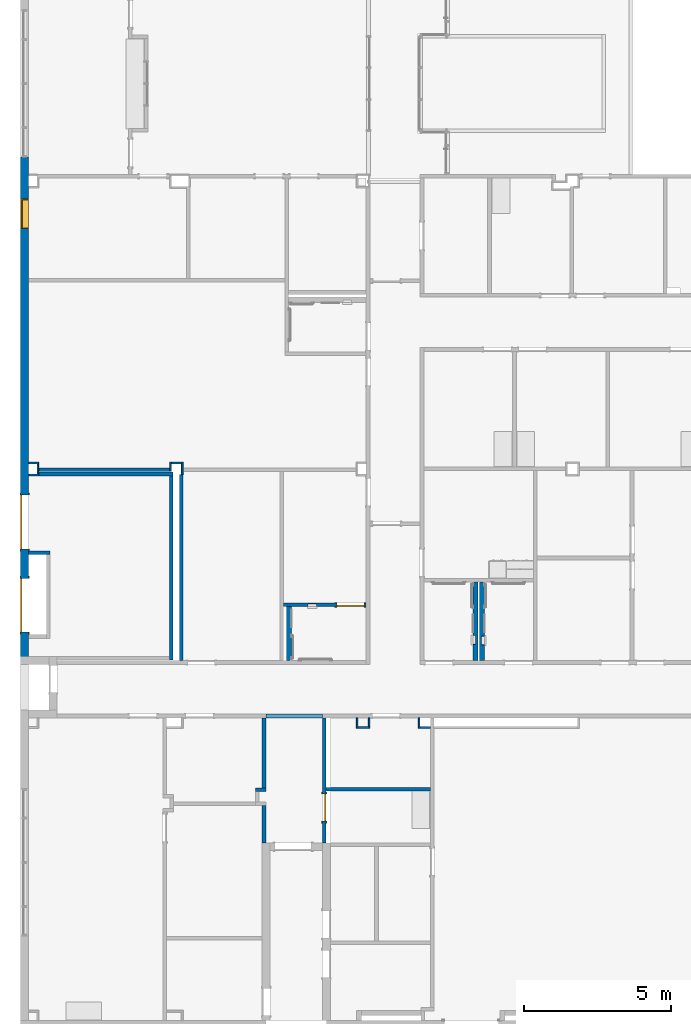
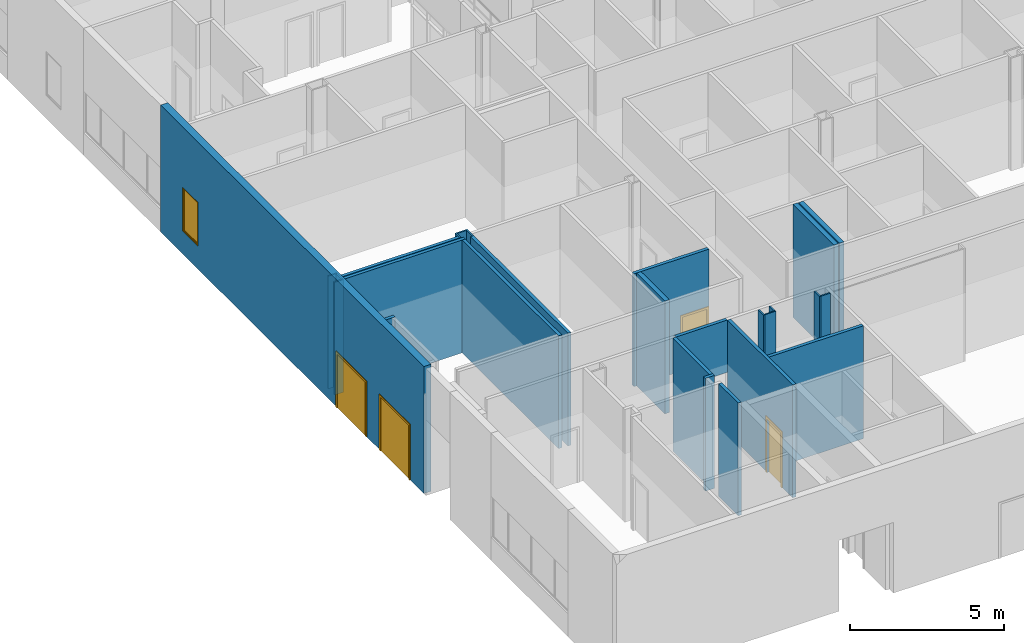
# One storey, part 20 of 87: 27 walls, 4 doors, 1 window, 8 openings.
"""IFC2X3 building model written with IfcOpenShell, lengths in metres."""

from ifc_helpers import new_model, entity, si_unit, converted_unit, frame, frame_2d, origin, origin_2d_with_axis, place, context, project, spatial, polyline, rectangle, outline, extrude, source, transform, mapped, material, layer, layer_set, layer_usage, type_object, type_shapes, element, fill, save


model = new_model("IFC2X3")

# Units and contexts
model_context = context("Model", 3, precision=1e-09, world=origin())
plan_context = context("Plan", 3, precision=1e-09, world=origin())
ifc_project = project(units=[si_unit("LENGTHUNIT", "METRE"), si_unit("AREAUNIT", "SQUARE_METRE"), si_unit("VOLUMEUNIT", "CUBIC_METRE"), converted_unit("PLANEANGLEUNIT", "DEGREE", entity("IfcRatioMeasure", 0.01745329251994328), si_unit("PLANEANGLEUNIT", "RADIAN"), dimensions=[0, 0, 0, 0, 0, 0, 0]), si_unit("TIMEUNIT", "SECOND")], contexts=[model_context, plan_context])

# Site, building, storey
site_placement = place(None, origin())
site = spatial("IfcSite", under=ifc_project, at=site_placement, Name="Default", CompositionType="ELEMENT")
building_placement = place(site_placement, origin())
building = spatial("IfcBuilding", under=site, at=building_placement, CompositionType="ELEMENT")
storey_placement = place(building_placement, origin())
storey = spatial("IfcBuildingStorey", under=building, at=storey_placement, Name="First Floor", CompositionType="ELEMENT", Elevation=-3.531500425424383e-13)

# Wall, openings, doors, window
ifc_material_1 = material(Name="Insulation - Insulated Panel")
ifc_layer_1 = layer(ifc_material_1, 0.042)
ifc_material_2 = material(Name="Metal - Firring")
ifc_layer_2 = layer(ifc_material_2, 0.038)
ifc_material_3 = material(Name="Wood - Sheathing - plywood")
ifc_layer_3 = layer(ifc_material_3, 0.019)
ifc_material_4 = material(Name="Metal - Stud Layer")
ifc_layer_4 = layer(ifc_material_4, 0.152)
ifc_material_5 = material(Name="Plasterboard")
ifc_layer_5 = layer(ifc_material_5, 0.016)
ifc_layer_set_1 = layer_set([ifc_layer_1, ifc_layer_2, ifc_layer_3, ifc_layer_4, ifc_layer_5], Name="Basic Wall:Exterior - Insul Panel on Mtl. Stud")
ifc_layer_usage_1 = layer_usage(ifc_layer_set_1, "AXIS2", "NEGATIVE", 0.1335)
wall_1_placement = place(storey_placement, frame((-52.14650000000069, 12.11349999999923, 0.0), z_axis=(0.0, 0.0, 1.0), x_axis=(0.0, 1.0, 0.0)))
wall_1 = element("IfcWallStandardCase", 1, at=wall_1_placement, inside=storey, material=ifc_layer_usage_1, Name="Basic Wall:Exterior - Insul Panel on Mtl. Stud", ObjectType="Basic Wall:Exterior - Insul Panel on Mtl. Stud", context=model_context, shape_type="SweptSolid", body=[
    extrude(rectangle(XDim=17.08145593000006, YDim=0.267, at=frame_2d((8.540727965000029, 0.0), x_axis=(1.0, 0.0))), origin(), (0.0, 0.0, 1.0), 5.02700000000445),
])
opening_1_placement = place(wall_1_placement, frame((0.9561000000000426, -0.1334999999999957, 0.0)))
opening_1 = element("IfcOpeningElement", 2, at=opening_1_placement, cuts=wall_1, Name="M_Double-Flush:1830 x 2134mm Exterior:1830 x 2134mm Exterior:1", ObjectType="Opening", context=model_context, shape_type="SweptSolid", body=[
    extrude(rectangle(XDim=2.133999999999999, YDim=1.829999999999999, at=frame_2d((1.067, 0.9149999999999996), x_axis=(1.0, 0.0))), frame((0.0, 0.0, 0.0), z_axis=(0.0, 1.0, 0.0), x_axis=(0.0, 0.0, 1.0)), (0.0, 0.0, 1.0), 0.267),
])
opening_2_placement = place(wall_1_placement, frame((3.776300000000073, -0.1335000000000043, 0.0)))
opening_2 = element("IfcOpeningElement", 3, at=opening_2_placement, cuts=wall_1, Name="M_Double-Flush:1830 x 2134mm Exterior:1830 x 2134mm Exterior:1", ObjectType="Opening", context=model_context, shape_type="SweptSolid", body=[
    extrude(rectangle(XDim=2.133999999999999, YDim=1.829999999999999, at=frame_2d((1.067, 0.9149999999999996), x_axis=(1.0, 0.0))), frame((0.0, 0.0, 0.0), z_axis=(0.0, 1.0, 0.0), x_axis=(0.0, 0.0, 1.0)), (0.0, 0.0, 1.0), 0.267),
])
opening_3_placement = place(wall_1_placement, frame((14.65250000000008, -0.1335000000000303, 0.9049999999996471)))
opening_3 = element("IfcOpeningElement", 4, at=opening_3_placement, cuts=wall_1, Name="M_Fixed:1735 x 1000mm:1735 x 1000mm:1", ObjectType="Opening", context=model_context, shape_type="SweptSolid", body=[
    extrude(rectangle(XDim=1.734999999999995, YDim=0.9999999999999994, at=frame_2d((0.8674999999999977, 0.5000000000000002), x_axis=(1.0, 0.0))), frame((0.0, 0.0, 0.0), z_axis=(0.0, 1.0, 0.0), x_axis=(0.0, 0.0, 1.0)), (0.0, 0.0, 1.0), 0.267),
])
door_style_1 = type_object("IfcDoorStyle", Name="1830 x 2134mm Exterior", ConstructionType="NOTDEFINED", OperationType="DOUBLE_DOOR_SINGLE_SWING", ParameterTakesPrecedence=False, Sizeable=False)
shared_shape_1 = source(origin(), model_context, "Body", "SweptSolid", [
    extrude(rectangle(XDim=0.051, YDim=0.9150000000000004, at=origin_2d_with_axis()), frame((1.3725, 0.2414999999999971, 0.0), z_axis=(0.0, 0.0, 1.0), x_axis=(0.0, -1.0, 0.0)), (0.0, 0.0, 1.0), 2.133999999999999),
    extrude(rectangle(XDim=0.05099999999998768, YDim=0.9149999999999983, at=origin_2d_with_axis()), frame((0.457500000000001, 0.2415000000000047, 0.0), z_axis=(0.0, 0.0, 1.0), x_axis=(0.0, -1.0, 0.0)), (0.0, 0.0, 1.0), 2.134),
    extrude(outline(polyline([(-1.048, 0.9149999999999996), (1.086, 0.9149999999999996), (1.086, 0.9909999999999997), (-1.124, 0.9909999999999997), (-1.124, -0.9909999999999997), (1.086, -0.9909999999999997), (1.086, -0.9149999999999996), (-1.048, -0.9149999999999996), (-1.048, 0.9149999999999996)])), frame((0.9149999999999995, -0.02499999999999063, 1.086), z_axis=(0.0, 1.0, 0.0), x_axis=(0.0, 0.0, -1.0)), (0.0, 0.0, 1.0), 0.02499999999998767),
    extrude(outline(polyline([(-1.048, 0.9149999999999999), (1.086, 0.9149999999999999), (1.086, 0.991), (-1.124, 0.991), (-1.124, -0.991), (1.086, -0.991), (1.086, -0.9149999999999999), (-1.048, -0.9149999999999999), (-1.048, 0.9149999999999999)])), frame((0.9150000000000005, 0.266999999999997, 1.086), z_axis=(0.0, 1.0, 0.0), x_axis=(0.0, 0.0, -1.0)), (0.0, 0.0, 1.0), 0.02500000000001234),
])
type_shapes(door_style_1, [shared_shape_1])
door_1_placement = place(opening_1_placement, origin())
door_1 = element("IfcDoor", 5, at=door_1_placement, inside=storey, type_object=door_style_1, Name="M_Double-Flush:1830 x 2134mm Exterior:1830 x 2134mm Exterior", ObjectType="1830 x 2134mm Exterior", OverallHeight=2.133999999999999, OverallWidth=1.83, context=model_context, shape_type="MappedRepresentation", body=[
    mapped(shared_shape_1, transform((0.0, 0.0, 0.0), scale=1.0)),
])
fill(opening_1, door_1)
door_2_placement = place(opening_2_placement, origin())
door_2 = element("IfcDoor", 6, at=door_2_placement, inside=storey, type_object=door_style_1, Name="M_Double-Flush:1830 x 2134mm Exterior:1830 x 2134mm Exterior", ObjectType="1830 x 2134mm Exterior", OverallHeight=2.133999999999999, OverallWidth=1.83, context=model_context, shape_type="MappedRepresentation", body=[
    mapped(shared_shape_1, transform((0.0, 0.0, 0.0), scale=1.0)),
])
fill(opening_2, door_2)
window_style = type_object("IfcWindowStyle", Name="1735 x 1000mm", ConstructionType="NOTDEFINED", OperationType="NOTDEFINED", ParameterTakesPrecedence=False, Sizeable=False)
shared_shape_2 = source(origin(), model_context, "Body", "SweptSolid", [
    extrude(rectangle(XDim=0.012, YDim=0.873999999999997, at=origin_2d_with_axis()), frame((0.5000000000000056, 0.2259999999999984, 0.06299999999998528), z_axis=(0.0, 0.0, 1.0), x_axis=(0.0, -1.0, 0.0)), (0.0, 0.0, 1.0), 1.609000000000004),
    extrude(outline(polyline([(-0.4809999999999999, -0.8485000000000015), (0.4809999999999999, -0.8485000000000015), (0.4809999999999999, 0.8485000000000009), (-0.4809999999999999, 0.8485000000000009), (-0.4809999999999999, -0.8485000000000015)]), holes=[polyline([(-0.4369999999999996, -0.8045000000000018), (-0.4369999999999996, 0.8045000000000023), (0.4369999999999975, 0.8045000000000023), (0.4369999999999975, -0.8045000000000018), (-0.4369999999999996, -0.8045000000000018)])]), frame((0.5000000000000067, 0.203999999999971, 0.8674999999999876), z_axis=(0.0, 1.0, 0.0), x_axis=(1.0, 0.0, 0.0)), (0.0, 0.0, 1.0), 0.04400000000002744),
    extrude(outline(polyline([(-0.4999999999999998, -0.8674999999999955), (0.4999999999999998, -0.8674999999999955), (0.4999999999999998, 0.8674999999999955), (-0.4999999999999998, 0.8674999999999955), (-0.4999999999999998, -0.8674999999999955)]), holes=[polyline([(-0.4810000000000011, -0.8484999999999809), (-0.4810000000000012, 0.8485000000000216), (0.4809999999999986, 0.8485000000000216), (0.4809999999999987, -0.8484999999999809), (-0.4810000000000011, -0.8484999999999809)])]), frame((0.500000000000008, 0.203999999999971, 0.8675000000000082), z_axis=(0.0, 1.0, 0.0), x_axis=(1.0, 0.0, 0.0)), (0.0, 0.0, 1.0), 0.06300000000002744),
    extrude(outline(polyline([(-0.5000000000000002, -0.867499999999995), (0.5000000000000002, -0.867499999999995), (0.5000000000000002, 0.867499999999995), (-0.5000000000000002, 0.867499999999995), (-0.5000000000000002, -0.867499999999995)]), holes=[polyline([(-0.4679999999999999, -0.8354999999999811), (-0.4679999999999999, 0.8355000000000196), (0.4680000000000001, 0.8355000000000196), (0.4680000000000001, -0.8354999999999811), (-0.4679999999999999, -0.8354999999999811)])]), frame((0.5000000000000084, 0.0, 0.8675000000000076), z_axis=(0.0, 1.0, 0.0), x_axis=(1.0, 0.0, 0.0)), (0.0, 0.0, 1.0), 0.2039999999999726),
])
type_shapes(window_style, [shared_shape_2])
window_placement = place(opening_3_placement, origin())
window = element("IfcWindow", 7, at=window_placement, inside=storey, type_object=window_style, Name="M_Fixed:1735 x 1000mm:1735 x 1000mm", ObjectType="1735 x 1000mm", OverallHeight=1.734999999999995, OverallWidth=0.9999999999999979, context=model_context, shape_type="MappedRepresentation", body=[
    mapped(shared_shape_2, transform((0.0, 0.0, 0.0), scale=1.0)),
])
fill(opening_3, window)

# Walls
ifc_layer_6 = layer(ifc_material_5, 0.016)
ifc_layer_7 = layer(ifc_material_4, 0.092)
ifc_layer_8 = layer(ifc_material_5, 0.016)
ifc_layer_set_2 = layer_set([ifc_layer_6, ifc_layer_7, ifc_layer_8], Name="Basic Wall:Interior - Partition (92mm Stud)")
ifc_layer_usage_2 = layer_usage(ifc_layer_set_2, "AXIS2", "NEGATIVE", 0.062)
wall_2_placement = place(storey_placement, frame((-51.67000000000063, 18.58799999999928, 0.0)))
element("IfcWallStandardCase", 8, at=wall_2_placement, inside=storey, material=ifc_layer_usage_2, Name="Basic Wall:Interior - Partition (92mm Stud)", ObjectType="Basic Wall:Interior - Partition (92mm Stud)", context=model_context, shape_type="SweptSolid", body=[
    extrude(rectangle(XDim=4.440000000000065, YDim=0.1240000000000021, at=frame_2d((2.220000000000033, 0.0), x_axis=(-1.0, 0.0))), origin(), (0.0, 0.0, 1.0), 4.46800000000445),
])
ifc_layer_9 = layer(ifc_material_4, 0.038)
ifc_layer_10 = layer(ifc_material_5, 0.016)
ifc_layer_set_3 = layer_set([ifc_layer_9, ifc_layer_10], Name="Basic Wall:Interior - Furring (38 mm Stud)")
ifc_layer_usage_3 = layer_usage(ifc_layer_set_3, "AXIS2", "POSITIVE", -0.027)
wall_3_placement = place(storey_placement, frame((-47.20300000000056, 18.52599999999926, 0.0), z_axis=(0.0, 0.0, 1.0), x_axis=(0.0, 1.0, 0.0)))
element("IfcWallStandardCase", 9, at=wall_3_placement, inside=storey, material=ifc_layer_usage_3, Name="Basic Wall:Interior - Furring (38 mm Stud)", ObjectType="Basic Wall:Interior - Furring (38 mm Stud)", context=model_context, shape_type="SweptSolid", body=[
    extrude(rectangle(XDim=0.3140000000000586, YDim=0.05400000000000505, at=frame_2d((0.1570000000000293, 0.0), x_axis=(-1.0, 0.0))), origin(), (0.0, 0.0, 1.0), 4.46800000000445),
])
ifc_layer_usage_4 = layer_usage(ifc_layer_set_3, "AXIS2", "POSITIVE", -0.027)
wall_4_placement = place(storey_placement, frame((-47.17600000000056, 18.81299999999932, 0.0)))
element("IfcWallStandardCase", 10, at=wall_4_placement, inside=storey, material=ifc_layer_usage_4, Name="Basic Wall:Interior - Furring (38 mm Stud)", ObjectType="Basic Wall:Interior - Furring (38 mm Stud)", context=model_context, shape_type="SweptSolid", body=[
    extrude(rectangle(XDim=0.3520000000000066, YDim=0.05400000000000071, at=frame_2d((0.1760000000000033, 0.0), x_axis=(-1.0, 0.0))), origin(), (0.0, 0.0, 1.0), 4.46800000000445),
])
ifc_layer_usage_5 = layer_usage(ifc_layer_set_3, "AXIS2", "POSITIVE", -0.027)
wall_5_placement = place(storey_placement, frame((-46.79700000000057, 18.83999999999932, 0.0), z_axis=(0.0, 0.0, 1.0), x_axis=(0.0, -1.0, 0.0)))
element("IfcWallStandardCase", 11, at=wall_5_placement, inside=storey, material=ifc_layer_usage_5, Name="Basic Wall:Interior - Furring (38 mm Stud)", ObjectType="Basic Wall:Interior - Furring (38 mm Stud)", context=model_context, shape_type="SweptSolid", body=[
    extrude(rectangle(XDim=0.4199999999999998, YDim=0.05400000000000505, at=frame_2d((0.2099999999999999, 0.0), x_axis=(-1.0, 0.0))), origin(), (0.0, 0.0, 1.0), 4.468000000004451),
])
ifc_layer_usage_6 = layer_usage(ifc_layer_set_3, "AXIS2", "POSITIVE", -0.027)
wall_6_placement = place(storey_placement, frame((-52.01300000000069, 18.81299999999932, 0.0)))
element("IfcWallStandardCase", 12, at=wall_6_placement, inside=storey, material=ifc_layer_usage_6, Name="Basic Wall:Interior - Furring (38 mm Stud)", ObjectType="Basic Wall:Interior - Furring (38 mm Stud)", context=model_context, shape_type="SweptSolid", body=[
    extrude(rectangle(XDim=0.3430000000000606, YDim=0.05400000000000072, at=frame_2d((0.1715000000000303, 0.0), x_axis=(-1.0, 0.0))), origin(), (0.0, 0.0, 1.0), 4.46800000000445),
])
ifc_layer_usage_7 = layer_usage(ifc_layer_set_3, "AXIS2", "POSITIVE", -0.027)
wall_7_placement = place(storey_placement, frame((-51.69700000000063, 18.78599999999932, 0.0), z_axis=(0.0, 0.0, 1.0), x_axis=(0.0, -1.0, 0.0)))
element("IfcWallStandardCase", 13, at=wall_7_placement, inside=storey, material=ifc_layer_usage_7, Name="Basic Wall:Interior - Furring (38 mm Stud)", ObjectType="Basic Wall:Interior - Furring (38 mm Stud)", context=model_context, shape_type="SweptSolid", body=[
    extrude(rectangle(XDim=0.3519999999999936, YDim=0.05400000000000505, at=frame_2d((0.1759999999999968, 0.0), x_axis=(-1.0, 0.0))), origin(), (0.0, 0.0, 1.0), 4.46800000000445),
])
ifc_layer_usage_8 = layer_usage(ifc_layer_set_2, "AXIS2", "NEGATIVE", 0.062)
wall_8_placement = place(storey_placement, frame((-47.10600000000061, 18.44199999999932, 0.0), z_axis=(0.0, 0.0, 1.0), x_axis=(-1.0, 0.0, 0.0)))
element("IfcWallStandardCase", 14, at=wall_8_placement, inside=storey, material=ifc_layer_usage_8, Name="Basic Wall:Interior - Partition (92mm Stud)", ObjectType="Basic Wall:Interior - Partition (92mm Stud)", context=model_context, shape_type="SweptSolid", body=[
    extrude(rectangle(XDim=4.56400000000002, YDim=0.1240000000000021, at=frame_2d((2.28200000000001, 0.0), x_axis=(-1.0, 0.0))), origin(), (0.0, 0.0, 1.0), 4.46800000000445),
])
ifc_layer_usage_9 = layer_usage(ifc_layer_set_2, "AXIS2", "NEGATIVE", 0.062)
wall_9_placement = place(storey_placement, frame((-47.16800000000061, 12.12299999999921, 0.0), z_axis=(0.0, 0.0, 1.0), x_axis=(0.0, 1.0, 0.0)))
element("IfcWallStandardCase", 15, at=wall_9_placement, inside=storey, material=ifc_layer_usage_9, Name="Basic Wall:Interior - Partition (92mm Stud)", ObjectType="Basic Wall:Interior - Partition (92mm Stud)", context=model_context, shape_type="SweptSolid", body=[
    extrude(rectangle(XDim=6.257000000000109, YDim=0.1240000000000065, at=frame_2d((3.128500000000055, 0.0), x_axis=(-1.0, 0.0))), origin(), (0.0, 0.0, 1.0), 4.46800000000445),
])
ifc_material_6 = material(Name="Type-X Plasterboard")
ifc_layer_11 = layer(ifc_material_6, 0.016)
ifc_layer_12 = layer(ifc_material_4, 0.092)
ifc_layer_13 = layer(ifc_material_6, 0.016)
ifc_layer_set_4 = layer_set([ifc_layer_11, ifc_layer_12, ifc_layer_13], Name="Basic Wall:Interior - Rated 1-HR (92mm Stud)")
ifc_layer_usage_10 = layer_usage(ifc_layer_set_4, "AXIS2", "NEGATIVE", 0.06200000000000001)
wall_10_placement = place(storey_placement, frame((-52.01300000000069, 15.7677999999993, 0.0)))
element("IfcWallStandardCase", 16, at=wall_10_placement, inside=storey, material=ifc_layer_usage_10, Name="Basic Wall:Interior - Rated 1-HR (92mm Stud)", ObjectType="Basic Wall:Interior - Rated 1-HR (92mm Stud)", context=model_context, shape_type="SweptSolid", body=[
    extrude(rectangle(XDim=0.7330000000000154, YDim=0.1240000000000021, at=frame_2d((0.3665000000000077, 0.0), x_axis=(-1.0, 0.0))), origin(), (0.0, 0.0, 1.0), 4.468000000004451),
])

# Wall, opening
ifc_layer_14 = layer(ifc_material_4, 0.152)
ifc_layer_15 = layer(ifc_material_5, 0.016)
ifc_layer_set_5 = layer_set([ifc_layer_14, ifc_layer_15], Name="Basic Wall:Interior - Furring (152 mm Stud)")
ifc_layer_usage_11 = layer_usage(ifc_layer_set_5, "AXIS2", "POSITIVE", -0.08399999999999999)
wall_11_placement = place(storey_placement, frame((-36.84100000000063, 12.10399999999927, 0.0), z_axis=(0.0, 0.0, 1.0), x_axis=(0.0, 1.0, 0.0)))
wall_11 = element("IfcWallStandardCase", 17, at=wall_11_placement, inside=storey, material=ifc_layer_usage_11, Name="Basic Wall:Interior - Furring (152 mm Stud)", ObjectType="Basic Wall:Interior - Furring (152 mm Stud)", context=model_context, shape_type="SweptSolid", body=[
    extrude(rectangle(XDim=2.661999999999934, YDim=0.1679999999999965, at=frame_2d((1.330999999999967, 0.0), x_axis=(-1.0, 0.0))), origin(), (0.0, 0.0, 1.0), 4.46800000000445),
])
opening_4_placement = place(wall_11_placement, origin())
element("IfcOpeningElement", 18, at=opening_4_placement, cuts=wall_11, ObjectType="Opening", context=model_context, shape_type="SweptSolid", body=[
    extrude(rectangle(XDim=1.362075, YDim=0.2984499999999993, at=frame_2d((0.0, 0.0), x_axis=(0.0, 1.0))), frame((0.7050999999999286, -0.004900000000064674, 1.041399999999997), z_axis=(0.0, 1.0, 0.0), x_axis=(1.0, 0.0, 0.0)), (0.0, 0.0, 1.0), 0.1524000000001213),
])

ifc_layer_usage_12 = layer_usage(ifc_layer_set_5, "AXIS2", "POSITIVE", -0.08399999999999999)
wall_12_placement = place(storey_placement, frame((-36.62900000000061, 14.76599999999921, 0.0), z_axis=(0.0, 0.0, 1.0), x_axis=(0.0, -1.0, 0.0)))
wall_12 = element("IfcWallStandardCase", 19, at=wall_12_placement, inside=storey, material=ifc_layer_usage_12, Name="Basic Wall:Interior - Furring (152 mm Stud)", ObjectType="Basic Wall:Interior - Furring (152 mm Stud)", context=model_context, shape_type="SweptSolid", body=[
    extrude(rectangle(XDim=2.661999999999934, YDim=0.1679999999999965, at=frame_2d((1.330999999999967, 0.0), x_axis=(-1.0, 0.0))), origin(), (0.0, 0.0, 1.0), 4.46800000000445),
])
opening_5_placement = place(wall_12_placement, origin())
element("IfcOpeningElement", 20, at=opening_5_placement, cuts=wall_12, ObjectType="Opening", context=model_context, shape_type="SweptSolid", body=[
    extrude(rectangle(XDim=1.362075, YDim=0.2984499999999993, at=frame_2d((0.0, 0.0), x_axis=(0.0, 1.0))), frame((1.976899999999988, -0.004900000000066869, 1.041399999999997), z_axis=(0.0, 1.0, 0.0), x_axis=(1.0, 0.0, 0.0)), (0.0, 0.0, 1.0), 0.1524000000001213),
])

# Walls
ifc_layer_usage_13 = layer_usage(ifc_layer_set_2, "AXIS2", "NEGATIVE", 0.062)
wall_13_placement = place(storey_placement, frame((-44.02200000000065, 10.16299999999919, 0.0), z_axis=(0.0, 0.0, 1.0), x_axis=(0.0, -1.0, 0.0)))
element("IfcWallStandardCase", 21, at=wall_13_placement, inside=storey, material=ifc_layer_usage_13, Name="Basic Wall:Interior - Partition (92mm Stud)", ObjectType="Basic Wall:Interior - Partition (92mm Stud)", context=model_context, shape_type="SweptSolid", body=[
    extrude(rectangle(XDim=2.378999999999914, YDim=0.1240000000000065, at=frame_2d((1.189499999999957, 0.0), x_axis=(-1.0, 0.0))), origin(), (0.0, 0.0, 1.0), 4.46800000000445),
])
ifc_layer_usage_14 = layer_usage(ifc_layer_set_2, "AXIS2", "NEGATIVE", 0.062)
wall_14_placement = place(storey_placement, frame((-43.96000000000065, 7.721999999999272, 0.0), z_axis=(0.0, 0.0, 1.0), x_axis=(-1.0, 0.0, 0.0)))
element("IfcWallStandardCase", 22, at=wall_14_placement, inside=storey, material=ifc_layer_usage_14, Name="Basic Wall:Interior - Partition (92mm Stud)", ObjectType="Basic Wall:Interior - Partition (92mm Stud)", context=model_context, shape_type="SweptSolid", body=[
    extrude(rectangle(XDim=0.3490001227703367, YDim=0.124, at=frame_2d((0.1745000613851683, 0.0), x_axis=(-1.0, 0.0))), origin(), (0.0, 0.0, 1.0), 4.46800000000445),
])
ifc_layer_usage_15 = layer_usage(ifc_layer_set_2, "AXIS2", "NEGATIVE", 0.062)
wall_15_placement = place(storey_placement, frame((-44.02200000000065, 7.18599999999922, 0.0), z_axis=(0.0, 0.0, 1.0), x_axis=(0.0, -1.0, 0.0)))
element("IfcWallStandardCase", 23, at=wall_15_placement, inside=storey, material=ifc_layer_usage_15, Name="Basic Wall:Interior - Partition (92mm Stud)", ObjectType="Basic Wall:Interior - Partition (92mm Stud)", context=model_context, shape_type="SweptSolid", body=[
    extrude(rectangle(XDim=1.266000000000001, YDim=0.1240000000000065, at=frame_2d((0.6330000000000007, 0.0), x_axis=(-1.0, 0.0))), origin(), (0.0, 0.0, 1.0), 4.46800000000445),
])
ifc_layer_usage_16 = layer_usage(ifc_layer_set_2, "AXIS2", "NEGATIVE", 0.062)
wall_16_placement = place(storey_placement, frame((-38.3793992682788, 7.736999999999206, 0.0), z_axis=(0.0, 0.0, 1.0), x_axis=(-1.0, 0.0, 0.0)))
element("IfcWallStandardCase", 24, at=wall_16_placement, inside=storey, material=ifc_layer_usage_16, Name="Basic Wall:Interior - Partition (92mm Stud)", ObjectType="Basic Wall:Interior - Partition (92mm Stud)", context=model_context, shape_type="SweptSolid", body=[
    extrude(rectangle(XDim=3.536600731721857, YDim=0.124, at=frame_2d((1.768300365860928, 0.0), x_axis=(-1.0, 0.0))), origin(), (0.0, 0.0, 1.0), 4.46800000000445),
])
ifc_layer_usage_17 = layer_usage(ifc_layer_set_3, "AXIS2", "POSITIVE", -0.027)
wall_17_placement = place(storey_placement, frame((-38.75840000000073, 9.809999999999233, 0.0), z_axis=(0.0, 0.0, 1.0), x_axis=(0.0, 1.0, 0.0)))
element("IfcWallStandardCase", 25, at=wall_17_placement, inside=storey, material=ifc_layer_usage_17, Name="Basic Wall:Interior - Furring (38 mm Stud)", ObjectType="Basic Wall:Interior - Furring (38 mm Stud)", context=model_context, shape_type="SweptSolid", body=[
    extrude(rectangle(XDim=0.3529999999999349, YDim=0.05399999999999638, at=frame_2d((0.1764999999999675, 0.0), x_axis=(-1.0, 0.0))), origin(), (0.0, 0.0, 1.0), 4.46800000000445),
])
ifc_layer_usage_18 = layer_usage(ifc_layer_set_3, "AXIS2", "POSITIVE", -0.027)
wall_18_placement = place(storey_placement, frame((-38.3793992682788, 9.836999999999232, 0.0), z_axis=(0.0, 0.0, 1.0), x_axis=(-1.0, 0.0, 0.0)))
element("IfcWallStandardCase", 26, at=wall_18_placement, inside=storey, material=ifc_layer_usage_18, Name="Basic Wall:Interior - Furring (38 mm Stud)", ObjectType="Basic Wall:Interior - Furring (38 mm Stud)", context=model_context, shape_type="SweptSolid", body=[
    extrude(rectangle(XDim=0.3520007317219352, YDim=0.05400000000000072, at=frame_2d((0.1760003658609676, 0.0), x_axis=(-1.0, 0.0))), origin(), (0.0, 0.0, 1.0), 4.46800000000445),
])

# Wall, openings, door
ifc_layer_usage_19 = layer_usage(ifc_layer_set_2, "AXIS2", "NEGATIVE", 0.062)
wall_19_placement = place(storey_placement, frame((-43.35400000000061, 13.99799999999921, 0.0)))
wall_19 = element("IfcWallStandardCase", 27, at=wall_19_placement, inside=storey, material=ifc_layer_usage_19, Name="Basic Wall:Interior - Partition (92mm Stud)", ObjectType="Basic Wall:Interior - Partition (92mm Stud)", context=model_context, shape_type="SweptSolid", body=[
    extrude(rectangle(XDim=2.799999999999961, YDim=0.1240000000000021, at=frame_2d((1.399999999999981, 0.0), x_axis=(-1.0, 0.0))), origin(), (0.0, 0.0, 1.0), 4.46800000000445),
])
opening_6_placement = place(wall_19_placement, origin())
element("IfcOpeningElement", 28, at=opening_6_placement, cuts=wall_19, ObjectType="Opening", context=model_context, shape_type="SweptSolid", body=[
    extrude(rectangle(XDim=1.362075, YDim=0.2984499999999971, at=origin_2d_with_axis()), frame((0.968899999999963, -0.1255000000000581, 1.041399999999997), z_axis=(0.0, 1.0, 0.0), x_axis=(0.0, 0.0, -1.0)), (0.0, 0.0, 1.0), 0.1524000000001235),
])
opening_7_placement = place(wall_19_placement, frame((2.719999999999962, 0.06199999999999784, 0.0)))
opening_7 = element("IfcOpeningElement", 29, at=opening_7_placement, cuts=wall_19, Name="M_Single-Flush:0915 x 2134mm:0915 x 2134mm:1", ObjectType="Opening", context=model_context, shape_type="SweptSolid", body=[
    extrude(rectangle(XDim=0.9149999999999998, YDim=2.134, at=frame_2d((1.067, 0.4574999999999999), x_axis=(0.0, -1.0))), frame((0.0, 0.0, 0.0), z_axis=(0.0, -1.0, 0.0), x_axis=(0.0, 0.0, 1.0)), (0.0, 0.0, 1.0), 0.124),
])
door_style_2 = type_object("IfcDoorStyle", Name="0915 x 2134mm", ConstructionType="NOTDEFINED", OperationType="SINGLE_SWING_LEFT", ParameterTakesPrecedence=False, Sizeable=False)
shared_shape_3 = source(origin(), model_context, "Body", "SweptSolid", [
    extrude(outline(polyline([(-0.5335, -1.123999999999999), (0.5334999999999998, -1.123999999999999), (0.5334999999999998, 1.086), (0.4574999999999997, 1.086), (0.4574999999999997, -1.048000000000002), (-0.4574999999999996, -1.048000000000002), (-0.4574999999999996, 1.086), (-0.5335, 1.086), (-0.5335, -1.123999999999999)])), frame((0.4575000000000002, 0.1489999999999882, 1.086), z_axis=(0.0, -1.0, 0.0), x_axis=(-1.0, 0.0, 0.0)), (0.0, 0.0, 1.0), 0.02499999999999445),
    extrude(outline(polyline([(-1.123999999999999, -0.5334999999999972), (1.085999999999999, -0.5334999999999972), (1.085999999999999, -0.4575000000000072), (-1.048, -0.4575000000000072), (-1.048, 0.4575000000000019), (1.085999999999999, 0.4575000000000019), (1.085999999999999, 0.5335000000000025), (-1.123999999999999, 0.5335000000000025), (-1.123999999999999, -0.5334999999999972)])), frame((0.4574999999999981, 0.0, 1.085999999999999), z_axis=(0.0, -1.0, 0.0), x_axis=(0.0, 0.0, -1.0)), (0.0, 0.0, 1.0), 0.02500000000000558),
    extrude(rectangle(XDim=0.9149999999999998, YDim=0.051, at=origin_2d_with_axis()), frame((0.4575000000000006, 0.09849999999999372, 0.0)), (0.0, 0.0, 1.0), 2.133999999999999),
])
type_shapes(door_style_2, [shared_shape_3])
door_3_placement = place(opening_7_placement, frame((0.0, 0.0, 0.0), z_axis=(0.0, 0.0, 1.0), x_axis=(-1.0, 0.0, 0.0)))
door_3 = element("IfcDoor", 30, at=door_3_placement, inside=storey, type_object=door_style_2, Name="M_Single-Flush:0915 x 2134mm:0915 x 2134mm", ObjectType="0915 x 2134mm", OverallHeight=2.134, OverallWidth=0.9149999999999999, context=model_context, shape_type="MappedRepresentation", body=[
    mapped(shared_shape_3, transform((0.0, 0.0, 0.0), scale=1.0)),
])
fill(opening_7, door_3)

# Walls
ifc_layer_usage_20 = layer_usage(ifc_layer_set_5, "AXIS2", "POSITIVE", -0.08399999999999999)
wall_20_placement = place(storey_placement, frame((-43.1770000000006, 13.93599999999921, 0.0), z_axis=(0.0, 0.0, 1.0), x_axis=(0.0, -1.0, 0.0)))
element("IfcWallStandardCase", 31, at=wall_20_placement, inside=storey, material=ifc_layer_usage_20, Name="Basic Wall:Interior - Furring (152 mm Stud)", ObjectType="Basic Wall:Interior - Furring (152 mm Stud)", context=model_context, shape_type="SweptSolid", body=[
    extrude(rectangle(XDim=1.831999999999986, YDim=0.1679999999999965, at=frame_2d((0.9159999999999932, 0.0), x_axis=(-1.0, 0.0))), origin(), (0.0, 0.0, 1.0), 4.46800000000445),
])
ifc_layer_usage_21 = layer_usage(ifc_layer_set_2, "AXIS2", "NEGATIVE", 0.062)
wall_21_placement = place(storey_placement, frame((-43.96000000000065, 10.22499999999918, 2.4)))
element("IfcWallStandardCase", 32, at=wall_21_placement, inside=storey, material=ifc_layer_usage_21, Name="Basic Wall:Interior - Partition (92mm Stud)", ObjectType="Basic Wall:Interior - Partition (92mm Stud)", context=model_context, shape_type="SweptSolid", body=[
    extrude(rectangle(XDim=1.919999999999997, YDim=0.1240000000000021, at=frame_2d((0.9599999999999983, 0.0), x_axis=(-1.0, 0.0))), origin(), (0.0, 0.0, 1.0), 2.06800000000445),
])
ifc_layer_usage_22 = layer_usage(ifc_layer_set_3, "AXIS2", "NEGATIVE", 0.027)
wall_22_placement = place(storey_placement, frame((-40.86300000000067, 10.16299999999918, 0.0), z_axis=(0.0, 0.0, 1.0), x_axis=(0.0, -1.0, 0.0)))
element("IfcWallStandardCase", 33, at=wall_22_placement, inside=storey, material=ifc_layer_usage_22, Name="Basic Wall:Interior - Furring (38 mm Stud)", ObjectType="Basic Wall:Interior - Furring (38 mm Stud)", context=model_context, shape_type="SweptSolid", body=[
    extrude(rectangle(XDim=0.3529999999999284, YDim=0.05400000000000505, at=frame_2d((0.1764999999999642, 0.0), x_axis=(-1.0, 0.0))), origin(), (0.0, 0.0, 1.0), 4.46800000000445),
])
ifc_layer_usage_23 = layer_usage(ifc_layer_set_3, "AXIS2", "NEGATIVE", 0.027)
wall_23_placement = place(storey_placement, frame((-40.83600000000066, 9.836999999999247, 0.0)))
element("IfcWallStandardCase", 34, at=wall_23_placement, inside=storey, material=ifc_layer_usage_23, Name="Basic Wall:Interior - Furring (38 mm Stud)", ObjectType="Basic Wall:Interior - Furring (38 mm Stud)", context=model_context, shape_type="SweptSolid", body=[
    extrude(rectangle(XDim=0.4059999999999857, YDim=0.05400000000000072, at=frame_2d((0.2029999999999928, 0.0), x_axis=(-1.0, 0.0))), origin(), (0.0, 0.0, 1.0), 4.46800000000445),
])
ifc_layer_usage_24 = layer_usage(ifc_layer_set_3, "AXIS2", "NEGATIVE", 0.027)
wall_24_placement = place(storey_placement, frame((-40.45700000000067, 9.863999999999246, 0.0), z_axis=(0.0, 0.0, 1.0), x_axis=(0.0, 1.0, 0.0)))
element("IfcWallStandardCase", 35, at=wall_24_placement, inside=storey, material=ifc_layer_usage_24, Name="Basic Wall:Interior - Furring (38 mm Stud)", ObjectType="Basic Wall:Interior - Furring (38 mm Stud)", context=model_context, shape_type="SweptSolid", body=[
    extrude(rectangle(XDim=0.2989999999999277, YDim=0.05400000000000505, at=frame_2d((0.1494999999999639, 0.0), x_axis=(-1.0, 0.0))), origin(), (0.0, 0.0, 1.0), 4.46800000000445),
])
ifc_layer_usage_25 = layer_usage(ifc_layer_set_3, "AXIS2", "POSITIVE", -0.027)
wall_25_placement = place(storey_placement, frame((-51.67000000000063, 18.40699999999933, 0.0), z_axis=(0.0, 0.0, 1.0), x_axis=(-1.0, 0.0, 0.0)))
element("IfcWallStandardCase", 36, at=wall_25_placement, inside=storey, material=ifc_layer_usage_25, Name="Basic Wall:Interior - Furring (38 mm Stud)", ObjectType="Basic Wall:Interior - Furring (38 mm Stud)", context=model_context, shape_type="SweptSolid", body=[
    extrude(rectangle(XDim=0.3430000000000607, YDim=0.05400000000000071, at=frame_2d((0.1715000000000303, 0.0), x_axis=(-1.0, 0.0))), origin(), (0.0, 0.0, 1.0), 4.46800000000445),
])
ifc_layer_usage_26 = layer_usage(ifc_layer_set_2, "AXIS2", "NEGATIVE", 0.062)
wall_26_placement = place(storey_placement, frame((-46.83200000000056, 18.41999999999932, 0.0), z_axis=(0.0, 0.0, 1.0), x_axis=(0.0, -1.0, 0.0)))
element("IfcWallStandardCase", 37, at=wall_26_placement, inside=storey, material=ifc_layer_usage_26, Name="Basic Wall:Interior - Partition (92mm Stud)", ObjectType="Basic Wall:Interior - Partition (92mm Stud)", context=model_context, shape_type="SweptSolid", body=[
    extrude(rectangle(XDim=6.316000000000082, YDim=0.1240000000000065, at=frame_2d((3.158000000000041, 0.0), x_axis=(-1.0, 0.0))), origin(), (0.0, 0.0, 1.0), 4.46800000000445),
])

# Wall, opening, door
ifc_layer_usage_27 = layer_usage(ifc_layer_set_2, "AXIS2", "NEGATIVE", 0.062)
wall_27_placement = place(storey_placement, frame((-41.97800000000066, 5.919999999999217, 0.0), z_axis=(0.0, 0.0, 1.0), x_axis=(0.0, 1.0, 0.0)))
wall_27 = element("IfcWallStandardCase", 38, at=wall_27_placement, inside=storey, material=ifc_layer_usage_27, Name="Basic Wall:Interior - Partition (92mm Stud)", ObjectType="Basic Wall:Interior - Partition (92mm Stud)", context=model_context, shape_type="SweptSolid", body=[
    extrude(rectangle(XDim=4.242999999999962, YDim=0.1240000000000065, at=frame_2d((2.121499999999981, 0.0), x_axis=(-1.0, 0.0))), origin(), (0.0, 0.0, 1.0), 4.468000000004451),
])
opening_8_placement = place(wall_27_placement, frame((1.654999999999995, 0.06200000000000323, 0.0)))
opening_8 = element("IfcOpeningElement", 39, at=opening_8_placement, cuts=wall_27, Name=":1", ObjectType="Opening", context=model_context, shape_type="SweptSolid", body=[
    extrude(rectangle(XDim=0.9149999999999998, YDim=2.134, at=frame_2d((1.067, 0.4575000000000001), x_axis=(0.0, -1.0))), frame((0.0, 0.0, 0.0), z_axis=(0.0, -1.0, 0.0), x_axis=(0.0, 0.0, 1.0)), (0.0, 0.0, 1.0), 0.124),
])
door_4_placement = place(opening_8_placement, frame((0.0, 0.0, 0.0), z_axis=(0.0, 0.0, 1.0), x_axis=(-1.0, 0.0, 0.0)))
door_4 = element("IfcDoor", 40, at=door_4_placement, inside=storey, type_object=door_style_2, Name="M_Single-Flush:0915 x 2134mm:0915 x 2134mm", ObjectType="0915 x 2134mm", OverallHeight=2.134, OverallWidth=0.9149999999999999, context=model_context, shape_type="MappedRepresentation", body=[
    mapped(shared_shape_3, transform((0.0, 0.0, 0.0), scale=1.0)),
])
fill(opening_8, door_4)

save(model, "model.ifc")
